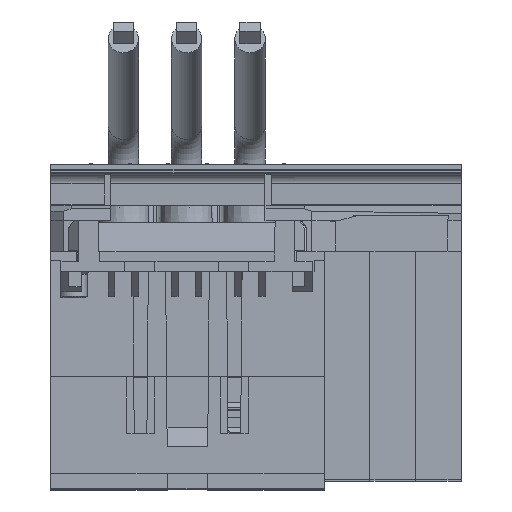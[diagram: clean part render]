
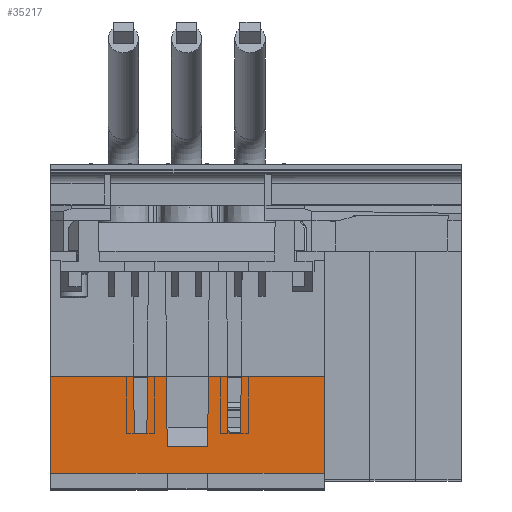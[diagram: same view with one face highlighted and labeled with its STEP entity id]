
A CAD part, top view. The second image highlights one B-rep face of the part: STEP entity #35217.
In plain terms, the highlighted planar face has unit normal (0, -0.009, 1).
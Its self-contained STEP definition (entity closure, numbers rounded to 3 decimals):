
#217 = EDGE_CURVE ( 'NONE', #17633, #1534, #11505, .T. ) ;
#662 = LINE ( 'NONE', #67602, #10433 ) ;
#1534 = VERTEX_POINT ( 'NONE', #40193 ) ;
#2975 = VECTOR ( 'NONE', #53840, 1000. ) ;
#4032 = DIRECTION ( 'NONE',  ( -1., 0., 0. ) ) ;
#4259 = LINE ( 'NONE', #17547, #29433 ) ;
#4857 = EDGE_CURVE ( 'NONE', #9455, #38805, #102911, .T. ) ;
#5210 = EDGE_CURVE ( 'NONE', #110525, #27967, #112627, .T. ) ;
#6046 = ORIENTED_EDGE ( 'NONE', *, *, #79759, .F. ) ;
#6343 = VECTOR ( 'NONE', #25562, 1000. ) ;
#7805 = CARTESIAN_POINT ( 'NONE',  ( -4., -23.5, 199.833 ) ) ;
#8171 = LINE ( 'NONE', #76640, #10962 ) ;
#8572 = VERTEX_POINT ( 'NONE', #115202 ) ;
#9455 = VERTEX_POINT ( 'NONE', #81586 ) ;
#10433 = VECTOR ( 'NONE', #4032, 1000. ) ;
#10907 = VECTOR ( 'NONE', #58371, 1000. ) ;
#10962 = VECTOR ( 'NONE', #102975, 1000. ) ;
#11403 = LINE ( 'NONE', #26739, #2975 ) ;
#11462 = CARTESIAN_POINT ( 'NONE',  ( -10.5, -15.7, 199.902 ) ) ;
#11505 = LINE ( 'NONE', #84003, #15720 ) ;
#12288 = CARTESIAN_POINT ( 'NONE',  ( -26., -23.5, 199.833 ) ) ;
#13868 = PLANE ( 'NONE',  #76297 ) ;
#14868 = CARTESIAN_POINT ( 'NONE',  ( -26., -4.5, 199.999 ) ) ;
#15720 = VECTOR ( 'NONE', #39177, 1000. ) ;
#16038 = ORIENTED_EDGE ( 'NONE', *, *, #115410, .T. ) ;
#16064 = ORIENTED_EDGE ( 'NONE', *, *, #113886, .F. ) ;
#16133 = LINE ( 'NONE', #88083, #6343 ) ;
#17393 = EDGE_CURVE ( 'NONE', #38805, #32448, #16133, .T. ) ;
#17547 = CARTESIAN_POINT ( 'NONE',  ( -26., -4.5, 199.999 ) ) ;
#17633 = VERTEX_POINT ( 'NONE', #81743 ) ;
#18610 = ORIENTED_EDGE ( 'NONE', *, *, #77343, .T. ) ;
#22083 = EDGE_CURVE ( 'NONE', #8572, #1534, #11403, .T. ) ;
#22082 = DIRECTION ( 'NONE',  ( 0., 1., 0.009 ) ) ;
#22361 = VERTEX_POINT ( 'NONE', #7805 ) ;
#22840 = VECTOR ( 'NONE', #70174, 1000. ) ;
#23683 = VECTOR ( 'NONE', #40770, 1000. ) ;
#25016 = VECTOR ( 'NONE', #22082, 1000. ) ;
#25562 = DIRECTION ( 'NONE',  ( -0.009, 1., 0.009 ) ) ;
#26121 = EDGE_CURVE ( 'NONE', #22361, #60574, #53991, .T. ) ;
#26739 = CARTESIAN_POINT ( 'NONE',  ( -4.003, -18.18, 199.88 ) ) ;
#27334 = VECTOR ( 'NONE', #98234, 1000. ) ;
#27679 = EDGE_CURVE ( 'NONE', #81896, #30539, #43856, .T. ) ;
#27967 = VERTEX_POINT ( 'NONE', #54756 ) ;
#28018 = VECTOR ( 'NONE', #66470, 1000. ) ;
#28347 = EDGE_CURVE ( 'NONE', #17633, #9455, #55020, .T. ) ;
#29285 = EDGE_LOOP ( 'NONE', ( #56064, #115204, #105166, #60980, #114698, #59722, #6046, #18610, #34340, #77777, #16064, #43818, #16038, #34390, #82033, #83447, #85307, #37038 ) ) ;
#29433 = VECTOR ( 'NONE', #63860, 1000. ) ;
#30539 = VERTEX_POINT ( 'NONE', #36135 ) ;
#31245 = CARTESIAN_POINT ( 'NONE',  ( 4., -23.5, 199.833 ) ) ;
#32448 = VERTEX_POINT ( 'NONE', #45421 ) ;
#33371 = CARTESIAN_POINT ( 'NONE',  ( 10.5, -15.7, 199.902 ) ) ;
#33569 = CARTESIAN_POINT ( 'NONE',  ( 4.303, 16.2, 200.18 ) ) ;
#34340 = ORIENTED_EDGE ( 'NONE', *, *, #39030, .T. ) ;
#34390 = ORIENTED_EDGE ( 'NONE', *, *, #22083, .T. ) ;
#34787 = LINE ( 'NONE', #31245, #10907 ) ;
#35217 = ADVANCED_FACE ( 'NONE', ( #101264 ), #13868, .T. ) ;
#36135 = CARTESIAN_POINT ( 'NONE',  ( -27., -23.5, 199.833 ) ) ;
#37038 = ORIENTED_EDGE ( 'NONE', *, *, #17393, .T. ) ;
#38805 = VERTEX_POINT ( 'NONE', #11462 ) ;
#39030 = EDGE_CURVE ( 'NONE', #58322, #45061, #662, .T. ) ;
#39177 = DIRECTION ( 'NONE',  ( 1., 0., 0. ) ) ;
#39725 = VECTOR ( 'NONE', #41440, 1000. ) ;
#40193 = CARTESIAN_POINT ( 'NONE',  ( -4.122, -4.5, 199.999 ) ) ;
#40770 = DIRECTION ( 'NONE',  ( 1., 0., 0. ) ) ;
#41440 = DIRECTION ( 'NONE',  ( 1., 0., 0. ) ) ;
#43818 = ORIENTED_EDGE ( 'NONE', *, *, #5210, .T. ) ;
#43856 = LINE ( 'NONE', #113492, #22840 ) ;
#45061 = VERTEX_POINT ( 'NONE', #45930 ) ;
#45421 = CARTESIAN_POINT ( 'NONE',  ( -10.598, -4.5, 199.999 ) ) ;
#45930 = CARTESIAN_POINT ( 'NONE',  ( 8., -15.7, 199.902 ) ) ;
#47100 = VERTEX_POINT ( 'NONE', #96407 ) ;
#47559 = LINE ( 'NONE', #14868, #23683 ) ;
#48436 = DIRECTION ( 'NONE',  ( 0., -0.009, 1. ) ) ;
#49038 = EDGE_CURVE ( 'NONE', #60574, #90951, #51974, .T. ) ;
#50620 = DIRECTION ( 'NONE',  ( -1., 0., 0. ) ) ;
#51974 = LINE ( 'NONE', #12288, #28018 ) ;
#52933 = CARTESIAN_POINT ( 'NONE',  ( -26., -23.5, 199.833 ) ) ;
#53840 = DIRECTION ( 'NONE',  ( -0.009, 1., 0.009 ) ) ;
#53991 = LINE ( 'NONE', #52933, #108984 ) ;
#54067 = LINE ( 'NONE', #80152, #27334 ) ;
#54756 = CARTESIAN_POINT ( 'NONE',  ( 4.003, -18.18, 199.88 ) ) ;
#55020 = LINE ( 'NONE', #60194, #88768 ) ;
#56064 = ORIENTED_EDGE ( 'NONE', *, *, #66780, .F. ) ;
#56347 = CARTESIAN_POINT ( 'NONE',  ( 7.902, -4.5, 199.999 ) ) ;
#57851 = CARTESIAN_POINT ( 'NONE',  ( -26., 18.5, 200.2 ) ) ;
#58249 = DIRECTION ( 'NONE',  ( 0., -1., -0.009 ) ) ;
#58322 = VERTEX_POINT ( 'NONE', #33371 ) ;
#58371 = DIRECTION ( 'NONE',  ( 1., 0., 0. ) ) ;
#59722 = ORIENTED_EDGE ( 'NONE', *, *, #89653, .T. ) ;
#60194 = CARTESIAN_POINT ( 'NONE',  ( -7.722, 16.2, 200.18 ) ) ;
#60574 = VERTEX_POINT ( 'NONE', #99258 ) ;
#60957 = DIRECTION ( 'NONE',  ( -0.009, -1., -0.009 ) ) ;
#60980 = ORIENTED_EDGE ( 'NONE', *, *, #26121, .T. ) ;
#63342 = VECTOR ( 'NONE', #96868, 1000. ) ;
#63860 = DIRECTION ( 'NONE',  ( 1., 0., 0. ) ) ;
#64899 = EDGE_CURVE ( 'NONE', #45061, #80650, #54067, .T. ) ;
#66470 = DIRECTION ( 'NONE',  ( 1., 0., 0. ) ) ;
#66780 = EDGE_CURVE ( 'NONE', #81896, #32448, #47559, .T. ) ;
#67602 = CARTESIAN_POINT ( 'NONE',  ( -26., -15.7, 199.902 ) ) ;
#70174 = DIRECTION ( 'NONE',  ( 0., -1., -0.009 ) ) ;
#73469 = CARTESIAN_POINT ( 'NONE',  ( 27., -23.5, 199.833 ) ) ;
#76297 = AXIS2_PLACEMENT_3D ( 'NONE', #57851, #48436, #58249 ) ;
#76640 = CARTESIAN_POINT ( 'NONE',  ( -26., -18.18, 199.88 ) ) ;
#77343 = EDGE_CURVE ( 'NONE', #47100, #58322, #97848, .T. ) ;
#77777 = ORIENTED_EDGE ( 'NONE', *, *, #64899, .T. ) ;
#79759 = EDGE_CURVE ( 'NONE', #47100, #94262, #87574, .T. ) ;
#80152 = CARTESIAN_POINT ( 'NONE',  ( 8., -15.7, 199.902 ) ) ;
#80650 = VERTEX_POINT ( 'NONE', #56347 ) ;
#81586 = CARTESIAN_POINT ( 'NONE',  ( -8., -15.7, 199.902 ) ) ;
#81743 = CARTESIAN_POINT ( 'NONE',  ( -7.902, -4.5, 199.999 ) ) ;
#81896 = VERTEX_POINT ( 'NONE', #86206 ) ;
#82033 = ORIENTED_EDGE ( 'NONE', *, *, #217, .F. ) ;
#83447 = ORIENTED_EDGE ( 'NONE', *, *, #28347, .T. ) ;
#84003 = CARTESIAN_POINT ( 'NONE',  ( -26., -4.5, 199.999 ) ) ;
#84614 = VECTOR ( 'NONE', #50620, 1000. ) ;
#85307 = ORIENTED_EDGE ( 'NONE', *, *, #4857, .T. ) ;
#86206 = CARTESIAN_POINT ( 'NONE',  ( -27., -4.5, 199.999 ) ) ;
#86219 = CARTESIAN_POINT ( 'NONE',  ( 10.778, 16.2, 200.18 ) ) ;
#86418 = CARTESIAN_POINT ( 'NONE',  ( -26., -15.7, 199.902 ) ) ;
#87574 = LINE ( 'NONE', #94947, #39725 ) ;
#87940 = DIRECTION ( 'NONE',  ( 1., 0., 0. ) ) ;
#88083 = CARTESIAN_POINT ( 'NONE',  ( -10.5, -15.7, 199.902 ) ) ;
#88768 = VECTOR ( 'NONE', #60957, 1000. ) ;
#88885 = DIRECTION ( 'NONE',  ( -0.009, -1., -0.009 ) ) ;
#89653 = EDGE_CURVE ( 'NONE', #90951, #94262, #110886, .T. ) ;
#90047 = EDGE_CURVE ( 'NONE', #30539, #22361, #34787, .T. ) ;
#90951 = VERTEX_POINT ( 'NONE', #73469 ) ;
#91485 = CARTESIAN_POINT ( 'NONE',  ( 4.122, -4.5, 199.999 ) ) ;
#94262 = VERTEX_POINT ( 'NONE', #94827 ) ;
#94827 = CARTESIAN_POINT ( 'NONE',  ( 27., -4.5, 199.999 ) ) ;
#94947 = CARTESIAN_POINT ( 'NONE',  ( -26., -4.5, 199.999 ) ) ;
#96407 = CARTESIAN_POINT ( 'NONE',  ( 10.598, -4.5, 199.999 ) ) ;
#96868 = DIRECTION ( 'NONE',  ( -0.009, -1., -0.009 ) ) ;
#97848 = LINE ( 'NONE', #86219, #116153 ) ;
#98234 = DIRECTION ( 'NONE',  ( -0.009, 1., 0.009 ) ) ;
#99258 = CARTESIAN_POINT ( 'NONE',  ( 4., -23.5, 199.833 ) ) ;
#101264 = FACE_OUTER_BOUND ( 'NONE', #29285, .T. ) ;
#102911 = LINE ( 'NONE', #86418, #84614 ) ;
#102975 = DIRECTION ( 'NONE',  ( -1., 0., 0. ) ) ;
#105166 = ORIENTED_EDGE ( 'NONE', *, *, #90047, .T. ) ;
#108984 = VECTOR ( 'NONE', #87940, 1000. ) ;
#110525 = VERTEX_POINT ( 'NONE', #91485 ) ;
#110886 = LINE ( 'NONE', #111698, #25016 ) ;
#111698 = CARTESIAN_POINT ( 'NONE',  ( 27., 18.5, 200.2 ) ) ;
#112627 = LINE ( 'NONE', #33569, #63342 ) ;
#113492 = CARTESIAN_POINT ( 'NONE',  ( -27., 18.5, 200.2 ) ) ;
#113886 = EDGE_CURVE ( 'NONE', #110525, #80650, #4259, .T. ) ;
#114698 = ORIENTED_EDGE ( 'NONE', *, *, #49038, .T. ) ;
#115202 = CARTESIAN_POINT ( 'NONE',  ( -4.003, -18.18, 199.88 ) ) ;
#115204 = ORIENTED_EDGE ( 'NONE', *, *, #27679, .T. ) ;
#115410 = EDGE_CURVE ( 'NONE', #27967, #8572, #8171, .T. ) ;
#116153 = VECTOR ( 'NONE', #88885, 1000. ) ;
